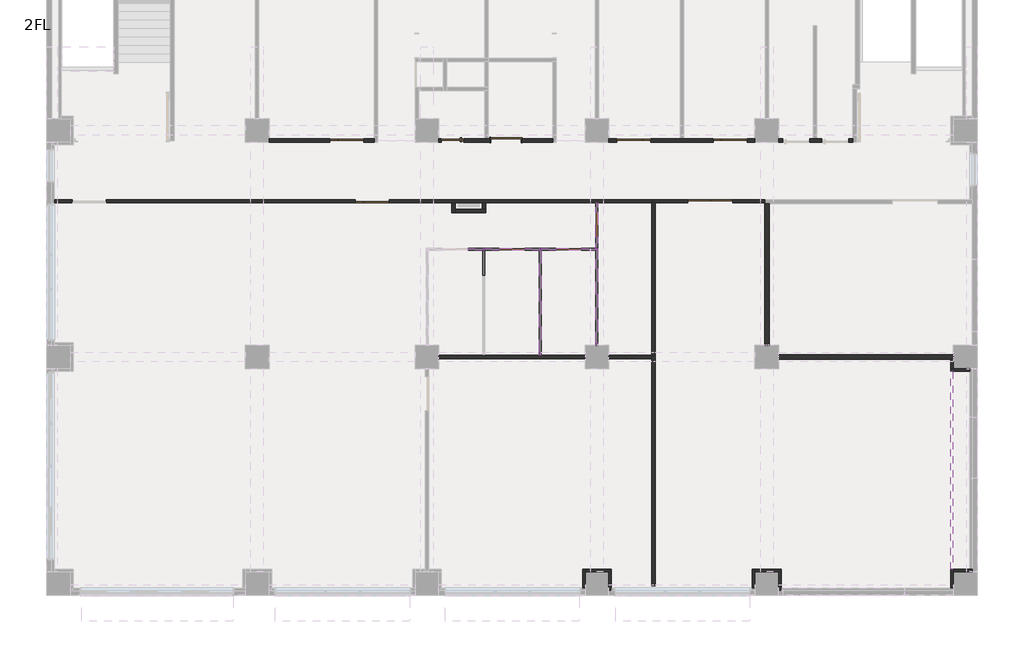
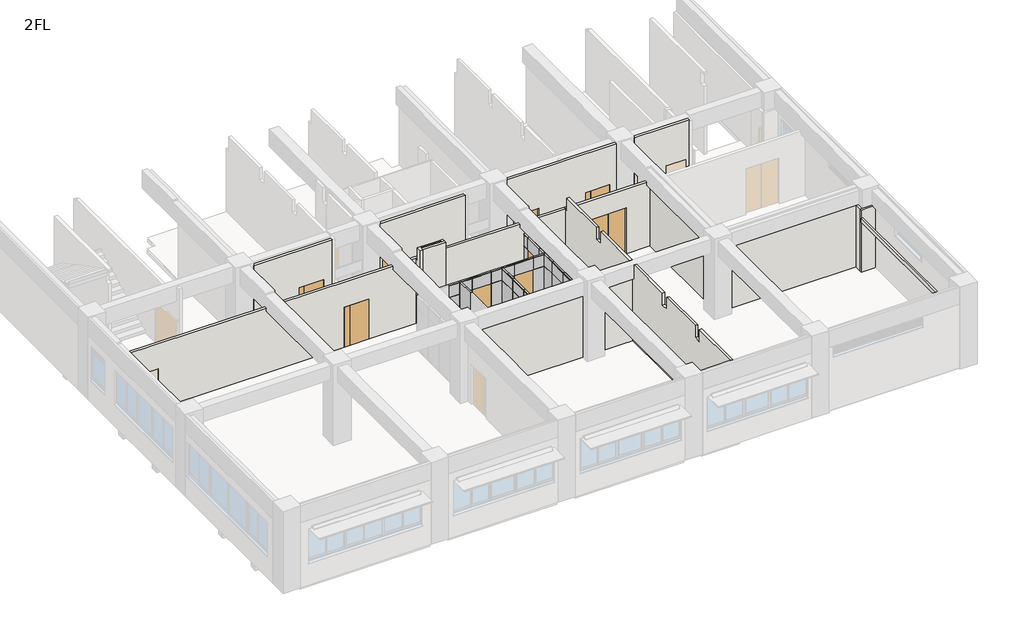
# One storey, part 2 of 7: 37 plates, 24 walls, 16 members, 10 doors.
"""IFC4 building model written with IfcOpenShell, lengths in millimetres."""

from ifc_helpers import new_model, si_unit, frame, origin, place, context, project, spatial, polyline, outline, extrude, faceted_brep, transform, mapped, element, save
from components import door_18b0804b, door_c235f466, door_db44657f, door_7458d189, door_48d1ee04, pt1_1e1990d0, member_b4131282, member_8fee23aa, plate_1920d3b0, plate_79e9bfaa, plate_647bdfd9, plate_5b77f55f, plate_b62a782f, plate_d5ff2d27, plate_b2ca1a00, plate_44eb6428, plate_b9e99dd6, plate_7cd72466, plate_84f50978, plate_53a28b3e, plate_90ae5f52, plate_9f777739, pt_5_5902302a, pt_5_33d2815e

model = new_model("IFC4")

# Units and contexts
model_context = context("Model", 3, world=origin())
ifc_project = project(units=[si_unit("LENGTHUNIT", "METRE", prefix="MILLI")], contexts=[model_context])

# Site, building, storey
site = spatial("IfcSite", under=ifc_project)
building = spatial("IfcBuilding", under=site)
storey = spatial("IfcBuildingStorey", under=building, Name="2FL", Elevation=4100.0)

# Doors
placement = place(None, origin())
door_shape = door_18b0804b(model_context)
element("IfcDoor", 1, ObjectType="営_親子扉 : LD2 1200*2000", at=placement, inside=storey, context=model_context, shape_type="MappedRepresentation", body=[
    mapped(door_shape, transform((23700.0, 15640.0, 4100.0), x_axis=(1.0, 0.0, 0.0), y_axis=(0.0, 1.0, 0.0), z_axis=(0.0, 0.0, 1.0))),
])
door_2_shape = door_c235f466(model_context)
element("IfcDoor", 2, ObjectType="営_親子扉 : LD2 1200*2000", at=placement, inside=storey, context=model_context, shape_type="MappedRepresentation", body=[
    mapped(door_2_shape, transform((11065.0, 13500.0, 4100.0), x_axis=(1.0, 0.0, 0.0), y_axis=(0.0, 1.0, 0.0), z_axis=(0.0, 0.0, 1.0))),
])
element("IfcDoor", 3, ObjectType="営_親子扉 : LD2 1200*2000", at=placement, inside=storey, context=model_context, shape_type="MappedRepresentation", body=[
    mapped(door_2_shape, transform((20300.0, 15640.0, 4100.0), x_axis=(-1.0, 0.0, 0.0), y_axis=(0.0, -1.0, 0.0), z_axis=(0.0, 0.0, 1.0))),
])
element("IfcDoor", 4, ObjectType="営_親子扉 : LD2 1200*2000", at=placement, inside=storey, context=model_context, shape_type="MappedRepresentation", body=[
    mapped(door_shape, transform((10162.645491, 15640.0, 4100.0), x_axis=(1.0, 0.0, 0.0), y_axis=(0.0, 1.0, 0.0), z_axis=(0.0, 0.0, 1.0))),
])
door_3_shape = door_db44657f(model_context)
element("IfcDoor", 5, ObjectType="営_両開き扉 : SD3c 1600*2300 2", at=placement, inside=storey, context=model_context, shape_type="MappedRepresentation", body=[
    mapped(door_3_shape, transform((23000.0, 13500.0, 4100.0), x_axis=(-1.0, 0.0, 0.0), y_axis=(0.0, -1.0, 0.0), z_axis=(0.0, 0.0, 1.0))),
])
door_4_shape = door_7458d189(model_context)
element("IfcDoor", 6, ObjectType="営_引戸／引込戸 : LD1 960*2000", at=placement, inside=storey, context=model_context, shape_type="MappedRepresentation", body=[
    mapped(door_4_shape, transform((15800.0, 15640.0, 4100.0), x_axis=(1.0, 0.0, 0.0), y_axis=(0.0, 1.0, 0.0), z_axis=(0.0, 0.0, 1.0))),
])
door_5_shape = door_48d1ee04(model_context)
element("IfcDoor", 7, ObjectType="営_片開き扉 : LD11 850*2000", at=placement, inside=storey, context=model_context, shape_type="MappedRepresentation", body=[
    mapped(door_5_shape, transform((13900.0, 15640.0, 4100.0), x_axis=(-1.0, 0.0, 0.0), y_axis=(0.0, -1.0, 0.0), z_axis=(0.0, 0.0, 1.0))),
])
pt1_shape = pt1_1e1990d0(model_context)
element("IfcDoor", 8, ObjectType="営_パーティションドア : PT3", at=placement, inside=storey, context=model_context, shape_type="MappedRepresentation", body=[
    mapped(pt1_shape, transform((16000.0, 11800.0, 4100.0), x_axis=(-1.0, 0.0, 0.0), y_axis=(0.0, -1.0, 0.0), z_axis=(0.0, 0.0, 1.0))),
])
element("IfcDoor", 9, ObjectType="営_パーティションドア : PT3", at=placement, inside=storey, context=model_context, shape_type="MappedRepresentation", body=[
    mapped(pt1_shape, transform((18000.0, 11800.0, 4100.0), x_axis=(-1.0, 0.0, 0.0), y_axis=(0.0, -1.0, 0.0), z_axis=(0.0, 0.0, 1.0))),
])
element("IfcDoor", 10, ObjectType="営_パーティションドア : PT4", at=placement, inside=storey, context=model_context, shape_type="MappedRepresentation", body=[
    mapped(pt1_shape, transform((19000.0, 12670.0, 4100.0), x_axis=(0.0, -1.0, 0.0), y_axis=(1.0, 0.0, 0.0), z_axis=(0.0, 0.0, 1.0))),
])

# Members
member_shape = member_b4131282(model_context)
element("IfcMember", 11, ObjectType="長方形マリオン : 70*70", at=placement, inside=storey, context=model_context, shape_type="MappedRepresentation", body=[
    mapped(member_shape, transform((17000.0, 11835.0, 4100.0), x_axis=(0.0, 1.0, 0.0), y_axis=(1.0, 0.0, 0.0), z_axis=(0.0, 0.0, -1.0))),
])
element("IfcMember", 12, ObjectType="長方形マリオン : 70*70", at=placement, inside=storey, context=model_context, shape_type="MappedRepresentation", body=[
    mapped(member_shape, transform((19035.0, 11800.0, 4100.0), x_axis=(1.0, 0.0, 0.0), y_axis=(0.0, -1.0, 0.0), z_axis=(0.0, 0.0, -1.0))),
])
element("IfcMember", 13, ObjectType="長方形マリオン : 70*70", at=placement, inside=storey, context=model_context, shape_type="MappedRepresentation", body=[
    mapped(member_shape, transform((15035.0, 11800.0, 4100.0), x_axis=(1.0, 0.0, 0.0), y_axis=(0.0, -1.0, 0.0), z_axis=(0.0, 0.0, -1.0))),
])
element("IfcMember", 14, ObjectType="長方形マリオン : 70*70", at=placement, inside=storey, context=model_context, shape_type="MappedRepresentation", body=[
    mapped(member_shape, transform((17035.0, 11800.0, 4100.0), x_axis=(1.0, 0.0, 0.0), y_axis=(0.0, -1.0, 0.0), z_axis=(0.0, 0.0, -1.0))),
])
member_2_shape = member_8fee23aa(model_context)
element("IfcMember", 15, ObjectType="長方形マリオン : 70*70", at=placement, inside=storey, context=model_context, shape_type="MappedRepresentation", body=[
    mapped(member_2_shape, transform((17000.0, 11835.0, 6200.0), x_axis=(0.0, 1.0, 0.0), y_axis=(1.0, 0.0, 0.0), z_axis=(0.0, 0.0, -1.0))),
])
element("IfcMember", 16, ObjectType="長方形マリオン : 70*70", at=placement, inside=storey, context=model_context, shape_type="MappedRepresentation", body=[
    mapped(member_2_shape, transform((19035.0, 11800.0, 6200.0), x_axis=(1.0, 0.0, 0.0), y_axis=(0.0, -1.0, 0.0), z_axis=(0.0, 0.0, -1.0))),
])
element("IfcMember", 17, ObjectType="長方形マリオン : 70*70", at=placement, inside=storey, context=model_context, shape_type="MappedRepresentation", body=[
    mapped(member_2_shape, transform((15035.0, 11800.0, 6200.0), x_axis=(1.0, 0.0, 0.0), y_axis=(0.0, -1.0, 0.0), z_axis=(0.0, 0.0, -1.0))),
])
element("IfcMember", 18, ObjectType="長方形マリオン : 70*70", at=placement, inside=storey, context=model_context, shape_type="MappedRepresentation", body=[
    mapped(member_2_shape, transform((17035.0, 11800.0, 6200.0), x_axis=(1.0, 0.0, 0.0), y_axis=(0.0, -1.0, 0.0), z_axis=(0.0, 0.0, -1.0))),
])
element("IfcMember", 19, ObjectType="長方形マリオン : 70*70", at=placement, inside=storey, context=model_context, shape_type="MappedRepresentation", body=[
    mapped(member_shape, transform((14965.0, 11800.0, 6200.0), x_axis=(-1.0, 0.0, 0.0), y_axis=(0.0, -1.0, 0.0), z_axis=(0.0, 0.0, 1.0))),
])
element("IfcMember", 20, ObjectType="長方形マリオン : 70*70", at=placement, inside=storey, context=model_context, shape_type="MappedRepresentation", body=[
    mapped(member_shape, transform((16965.0, 11800.0, 6200.0), x_axis=(-1.0, 0.0, 0.0), y_axis=(0.0, -1.0, 0.0), z_axis=(0.0, 0.0, 1.0))),
])
element("IfcMember", 21, ObjectType="長方形マリオン : 70*70", at=placement, inside=storey, context=model_context, shape_type="MappedRepresentation", body=[
    mapped(member_shape, transform((19000.0, 8420.0, 6200.0), x_axis=(0.0, -1.0, 0.0), y_axis=(1.0, 0.0, 0.0), z_axis=(0.0, 0.0, 1.0))),
])
element("IfcMember", 22, ObjectType="長方形マリオン : 70*70", at=placement, inside=storey, context=model_context, shape_type="MappedRepresentation", body=[
    mapped(member_2_shape, transform((14965.0, 11800.0, 6800.0), x_axis=(-1.0, 0.0, 0.0), y_axis=(0.0, -1.0, 0.0), z_axis=(0.0, 0.0, 1.0))),
])
element("IfcMember", 23, ObjectType="長方形マリオン : 70*70", at=placement, inside=storey, context=model_context, shape_type="MappedRepresentation", body=[
    mapped(member_2_shape, transform((16965.0, 11800.0, 6800.0), x_axis=(-1.0, 0.0, 0.0), y_axis=(0.0, -1.0, 0.0), z_axis=(0.0, 0.0, 1.0))),
])
element("IfcMember", 24, ObjectType="長方形マリオン : 70*70", at=placement, inside=storey, context=model_context, shape_type="MappedRepresentation", body=[
    mapped(member_2_shape, transform((19000.0, 8420.0, 6800.0), x_axis=(0.0, -1.0, 0.0), y_axis=(1.0, 0.0, 0.0), z_axis=(0.0, 0.0, 1.0))),
])
element("IfcMember", 25, ObjectType="長方形マリオン : 70*70", at=placement, inside=storey, context=model_context, shape_type="MappedRepresentation", body=[
    mapped(member_2_shape, transform((15000.0, 11835.0, 4100.0), x_axis=(0.0, 1.0, 0.0), y_axis=(1.0, 0.0, 0.0), z_axis=(0.0, 0.0, -1.0))),
])
element("IfcMember", 26, ObjectType="長方形マリオン : 70*70", at=placement, inside=storey, context=model_context, shape_type="MappedRepresentation", body=[
    mapped(member_shape, transform((15000.0, 11835.0, 4700.0), x_axis=(0.0, 1.0, 0.0), y_axis=(1.0, 0.0, 0.0), z_axis=(0.0, 0.0, -1.0))),
])

# Plates
plate_shape = plate_1920d3b0(model_context)
element("IfcPlate", 27, ObjectType="営_パーティションパネル_上部 : パーティションパネル_上部", at=placement, inside=storey, context=model_context, shape_type="MappedRepresentation", body=[
    mapped(plate_shape, transform((17000.0, 8112.4999998, 6200.0), x_axis=(0.0, 1.0, 0.0), y_axis=(-1.0, 0.0, 0.0), z_axis=(0.0, 0.0, 1.0))),
])
plate_2_shape = plate_79e9bfaa(model_context)
element("IfcPlate", 28, ObjectType="営_パーティションパネル_下部 : パーティションパネル_下部", at=placement, inside=storey, context=model_context, shape_type="MappedRepresentation", body=[
    mapped(plate_2_shape, transform((17000.0, 8112.4999998, 4100.0), x_axis=(0.0, 1.0, 0.0), y_axis=(-1.0, 0.0, 0.0), z_axis=(0.0, 0.0, 1.0))),
])
plate_3_shape = plate_647bdfd9(model_context)
element("IfcPlate", 29, ObjectType="営_パーティションパネル_下部 : パーティションパネル_下部", at=placement, inside=storey, context=model_context, shape_type="MappedRepresentation", body=[
    mapped(plate_3_shape, transform((19000.0, 13280.0, 4100.0), x_axis=(0.0, 1.0, 0.0), y_axis=(-1.0, 0.0, 0.0), z_axis=(0.0, 0.0, 1.0))),
])
plate_4_shape = plate_5b77f55f(model_context)
element("IfcPlate", 30, ObjectType="営_パーティションパネル_上部 : パーティションパネル_上部", at=placement, inside=storey, context=model_context, shape_type="MappedRepresentation", body=[
    mapped(plate_4_shape, transform((19000.0, 13280.0, 6200.0), x_axis=(0.0, 1.0, 0.0), y_axis=(-1.0, 0.0, 0.0), z_axis=(0.0, 0.0, 1.0))),
])
plate_5_shape = plate_b62a782f(model_context)
element("IfcPlate", 31, ObjectType="営_パーティションパネル_上部 : パーティションパネル_上部", at=placement, inside=storey, context=model_context, shape_type="MappedRepresentation", body=[
    mapped(plate_5_shape, transform((19000.0, 12010.0, 6200.0), x_axis=(0.0, 1.0, 0.0), y_axis=(-1.0, 0.0, 0.0), z_axis=(0.0, 0.0, 1.0))),
])
plate_6_shape = plate_d5ff2d27(model_context)
element("IfcPlate", 32, ObjectType="営_パーティションパネル_下部 : パーティションパネル_下部", at=placement, inside=storey, context=model_context, shape_type="MappedRepresentation", body=[
    mapped(plate_6_shape, transform((19000.0, 12010.0, 4100.0), x_axis=(0.0, 1.0, 0.0), y_axis=(-1.0, 0.0, 0.0), z_axis=(0.0, 0.0, 1.0))),
])
plate_7_shape = plate_b2ca1a00(model_context)
element("IfcPlate", 33, ObjectType="営_パーティションパネル_下部 : パーティションパネル_下部", at=placement, inside=storey, context=model_context, shape_type="MappedRepresentation", body=[
    mapped(plate_7_shape, transform((19000.0, 11455.0000002, 4100.0), x_axis=(0.0, 1.0, 0.0), y_axis=(-1.0, 0.0, 0.0), z_axis=(0.0, 0.0, 1.0))),
])
plate_8_shape = plate_44eb6428(model_context)
element("IfcPlate", 34, ObjectType="営_パーティションパネル_上部 : パーティションパネル_上部", at=placement, inside=storey, context=model_context, shape_type="MappedRepresentation", body=[
    mapped(plate_8_shape, transform((19000.0, 11455.0000002, 6200.0), x_axis=(0.0, 1.0, 0.0), y_axis=(-1.0, 0.0, 0.0), z_axis=(0.0, 0.0, 1.0))),
])
plate_9_shape = plate_b9e99dd6(model_context)
element("IfcPlate", 35, ObjectType="営_パーティションパネル_下部 : パーティションパネル_下部", at=placement, inside=storey, context=model_context, shape_type="MappedRepresentation", body=[
    mapped(plate_9_shape, transform((19000.0, 8900.0000002, 4100.0), x_axis=(0.0, 1.0, 0.0), y_axis=(-1.0, 0.0, 0.0), z_axis=(0.0, 0.0, 1.0))),
])
plate_10_shape = plate_7cd72466(model_context)
element("IfcPlate", 36, ObjectType="営_パーティションパネル_上部 : パーティションパネル_上部", at=placement, inside=storey, context=model_context, shape_type="MappedRepresentation", body=[
    mapped(plate_10_shape, transform((19000.0, 8900.0000002, 6200.0), x_axis=(0.0, 1.0, 0.0), y_axis=(-1.0, 0.0, 0.0), z_axis=(0.0, 0.0, 1.0))),
])
plate_11_shape = plate_84f50978(model_context)
element("IfcPlate", 37, ObjectType="営_パーティションパネル_下部 : パーティションパネル_下部", at=placement, inside=storey, context=model_context, shape_type="MappedRepresentation", body=[
    mapped(plate_11_shape, transform((19000.0, 9760.0000003, 4100.0), x_axis=(0.0, 1.0, 0.0), y_axis=(-1.0, 0.0, 0.0), z_axis=(0.0, 0.0, 1.0))),
])
element("IfcPlate", 38, ObjectType="営_パーティションパネル_下部 : パーティションパネル_下部", at=placement, inside=storey, context=model_context, shape_type="MappedRepresentation", body=[
    mapped(plate_11_shape, transform((19000.0, 10660.0000003, 4100.0), x_axis=(0.0, 1.0, 0.0), y_axis=(-1.0, 0.0, 0.0), z_axis=(0.0, 0.0, 1.0))),
])
element("IfcPlate", 39, ObjectType="営_パーティションパネル_下部 : パーティションパネル_下部", at=placement, inside=storey, context=model_context, shape_type="MappedRepresentation", body=[
    mapped(plate_11_shape, transform((17000.0, 8614.9999997, 4100.0), x_axis=(0.0, 1.0, 0.0), y_axis=(-1.0, 0.0, 0.0), z_axis=(0.0, 0.0, 1.0))),
])
element("IfcPlate", 40, ObjectType="営_パーティションパネル_下部 : パーティションパネル_下部", at=placement, inside=storey, context=model_context, shape_type="MappedRepresentation", body=[
    mapped(plate_11_shape, transform((17000.0, 10414.9999997, 4100.0), x_axis=(0.0, 1.0, 0.0), y_axis=(-1.0, 0.0, 0.0), z_axis=(0.0, 0.0, 1.0))),
])
element("IfcPlate", 41, ObjectType="営_パーティションパネル_下部 : パーティションパネル_下部", at=placement, inside=storey, context=model_context, shape_type="MappedRepresentation", body=[
    mapped(plate_11_shape, transform((17000.0, 11314.9999998, 4100.0), x_axis=(0.0, 1.0, 0.0), y_axis=(-1.0, 0.0, 0.0), z_axis=(0.0, 0.0, 1.0))),
])
element("IfcPlate", 42, ObjectType="営_パーティションパネル_下部 : パーティションパネル_下部", at=placement, inside=storey, context=model_context, shape_type="MappedRepresentation", body=[
    mapped(plate_11_shape, transform((15000.0, 11314.9999998, 4700.0), x_axis=(0.0, 1.0, 0.0), y_axis=(-1.0, 0.0, 0.0), z_axis=(0.0, 0.0, 1.0))),
])
plate_12_shape = plate_53a28b3e(model_context)
element("IfcPlate", 43, ObjectType="営_パーティションパネル_上部 : パーティションパネル_上部", at=placement, inside=storey, context=model_context, shape_type="MappedRepresentation", body=[
    mapped(plate_12_shape, transform((16000.0, 11800.0, 6200.0), x_axis=(1.0, 0.0, 0.0), y_axis=(0.0, 1.0, 0.0), z_axis=(0.0, 0.0, 1.0))),
])
element("IfcPlate", 44, ObjectType="営_パーティションパネル_上部 : パーティションパネル_上部", at=placement, inside=storey, context=model_context, shape_type="MappedRepresentation", body=[
    mapped(plate_12_shape, transform((18000.0, 11800.0, 6200.0), x_axis=(1.0, 0.0, 0.0), y_axis=(0.0, 1.0, 0.0), z_axis=(0.0, 0.0, 1.0))),
])
element("IfcPlate", 45, ObjectType="営_パーティションパネル_上部 : パーティションパネル_上部", at=placement, inside=storey, context=model_context, shape_type="MappedRepresentation", body=[
    mapped(plate_12_shape, transform((19000.0, 9760.0000003, 6200.0), x_axis=(0.0, 1.0, 0.0), y_axis=(-1.0, 0.0, 0.0), z_axis=(0.0, 0.0, 1.0))),
])
element("IfcPlate", 46, ObjectType="営_パーティションパネル_上部 : パーティションパネル_上部", at=placement, inside=storey, context=model_context, shape_type="MappedRepresentation", body=[
    mapped(plate_12_shape, transform((19000.0, 10660.0000003, 6200.0), x_axis=(0.0, 1.0, 0.0), y_axis=(-1.0, 0.0, 0.0), z_axis=(0.0, 0.0, 1.0))),
])
element("IfcPlate", 47, ObjectType="営_パーティションパネル_上部 : パーティションパネル_上部", at=placement, inside=storey, context=model_context, shape_type="MappedRepresentation", body=[
    mapped(plate_12_shape, transform((19000.0, 12670.0, 6200.0), x_axis=(0.0, 1.0, 0.0), y_axis=(-1.0, 0.0, 0.0), z_axis=(0.0, 0.0, 1.0))),
])
element("IfcPlate", 48, ObjectType="営_パーティションパネル_上部 : パーティションパネル_上部", at=placement, inside=storey, context=model_context, shape_type="MappedRepresentation", body=[
    mapped(plate_12_shape, transform((17000.0, 8614.9999997, 6200.0), x_axis=(0.0, 1.0, 0.0), y_axis=(-1.0, 0.0, 0.0), z_axis=(0.0, 0.0, 1.0))),
])
element("IfcPlate", 49, ObjectType="営_パーティションパネル_上部 : パーティションパネル_上部", at=placement, inside=storey, context=model_context, shape_type="MappedRepresentation", body=[
    mapped(plate_12_shape, transform((17000.0, 9514.9999997, 6200.0), x_axis=(0.0, 1.0, 0.0), y_axis=(-1.0, 0.0, 0.0), z_axis=(0.0, 0.0, 1.0))),
])
element("IfcPlate", 50, ObjectType="営_パーティションパネル_上部 : パーティションパネル_上部", at=placement, inside=storey, context=model_context, shape_type="MappedRepresentation", body=[
    mapped(plate_12_shape, transform((17000.0, 10414.9999997, 6200.0), x_axis=(0.0, 1.0, 0.0), y_axis=(-1.0, 0.0, 0.0), z_axis=(0.0, 0.0, 1.0))),
])
element("IfcPlate", 51, ObjectType="営_パーティションパネル_上部 : パーティションパネル_上部", at=placement, inside=storey, context=model_context, shape_type="MappedRepresentation", body=[
    mapped(plate_12_shape, transform((17000.0, 11314.9999998, 6200.0), x_axis=(0.0, 1.0, 0.0), y_axis=(-1.0, 0.0, 0.0), z_axis=(0.0, 0.0, 1.0))),
])
plate_13_shape = plate_90ae5f52(model_context)
element("IfcPlate", 52, ObjectType="営_パーティションパネル_下部 : パーティションパネル_下部", at=placement, inside=storey, context=model_context, shape_type="MappedRepresentation", body=[
    mapped(plate_13_shape, transform((16707.5, 11800.0, 4100.0), x_axis=(1.0, 0.0, 0.0), y_axis=(0.0, 1.0, 0.0), z_axis=(0.0, 0.0, 1.0))),
])
element("IfcPlate", 53, ObjectType="営_パーティションパネル_下部 : パーティションパネル_下部", at=placement, inside=storey, context=model_context, shape_type="MappedRepresentation", body=[
    mapped(plate_13_shape, transform((18707.5, 11800.0, 4100.0), x_axis=(1.0, 0.0, 0.0), y_axis=(0.0, 1.0, 0.0), z_axis=(0.0, 0.0, 1.0))),
])
element("IfcPlate", 54, ObjectType="営_パーティションパネル_下部 : パーティションパネル_下部", at=placement, inside=storey, context=model_context, shape_type="MappedRepresentation", body=[
    mapped(plate_13_shape, transform((15292.5, 11800.0, 4100.0), x_axis=(1.0, 0.0, 0.0), y_axis=(0.0, 1.0, 0.0), z_axis=(0.0, 0.0, 1.0))),
])
element("IfcPlate", 55, ObjectType="営_パーティションパネル_下部 : パーティションパネル_下部", at=placement, inside=storey, context=model_context, shape_type="MappedRepresentation", body=[
    mapped(plate_13_shape, transform((17292.5, 11800.0, 4100.0), x_axis=(1.0, 0.0, 0.0), y_axis=(0.0, 1.0, 0.0), z_axis=(0.0, 0.0, 1.0))),
])
element("IfcPlate", 56, ObjectType="営_パーティションパネル_下部 : パーティションパネル_下部", at=placement, inside=storey, context=model_context, shape_type="MappedRepresentation", body=[
    mapped(plate_13_shape, transform((14707.5, 11800.0, 4100.0), x_axis=(1.0, 0.0, 0.0), y_axis=(0.0, 1.0, 0.0), z_axis=(0.0, 0.0, 1.0))),
])
plate_14_shape = plate_9f777739(model_context)
element("IfcPlate", 57, ObjectType="営_パーティションパネル_上部 : パーティションパネル_上部", at=placement, inside=storey, context=model_context, shape_type="MappedRepresentation", body=[
    mapped(plate_14_shape, transform((16707.5, 11800.0, 6200.0), x_axis=(1.0, 0.0, 0.0), y_axis=(0.0, 1.0, 0.0), z_axis=(0.0, 0.0, 1.0))),
])
element("IfcPlate", 58, ObjectType="営_パーティションパネル_上部 : パーティションパネル_上部", at=placement, inside=storey, context=model_context, shape_type="MappedRepresentation", body=[
    mapped(plate_14_shape, transform((18707.5, 11800.0, 6200.0), x_axis=(1.0, 0.0, 0.0), y_axis=(0.0, 1.0, 0.0), z_axis=(0.0, 0.0, 1.0))),
])
element("IfcPlate", 59, ObjectType="営_パーティションパネル_上部 : パーティションパネル_上部", at=placement, inside=storey, context=model_context, shape_type="MappedRepresentation", body=[
    mapped(plate_14_shape, transform((15292.5, 11800.0, 6200.0), x_axis=(1.0, 0.0, 0.0), y_axis=(0.0, 1.0, 0.0), z_axis=(0.0, 0.0, 1.0))),
])
element("IfcPlate", 60, ObjectType="営_パーティションパネル_上部 : パーティションパネル_上部", at=placement, inside=storey, context=model_context, shape_type="MappedRepresentation", body=[
    mapped(plate_14_shape, transform((17292.5, 11800.0, 6200.0), x_axis=(1.0, 0.0, 0.0), y_axis=(0.0, 1.0, 0.0), z_axis=(0.0, 0.0, 1.0))),
])
element("IfcPlate", 61, ObjectType="営_パーティションパネル_上部 : パーティションパネル_上部", at=placement, inside=storey, context=model_context, shape_type="MappedRepresentation", body=[
    mapped(plate_14_shape, transform((14707.5, 11800.0, 6200.0), x_axis=(1.0, 0.0, 0.0), y_axis=(0.0, 1.0, 0.0), z_axis=(0.0, 0.0, 1.0))),
])
pt_5_shape = pt_5_5902302a(model_context)
element("IfcPlate", 62, ObjectType="営_パーティションパネル_下部 : パーティションパネル_下部", at=placement, inside=storey, context=model_context, shape_type="MappedRepresentation", body=[
    mapped(pt_5_shape, transform((15000.0, 11314.9999998, 4100.0), x_axis=(0.0, 1.0, 0.0), y_axis=(-1.0, 0.0, 0.0), z_axis=(0.0, 0.0, 1.0))),
])
pt_5_2_shape = pt_5_33d2815e(model_context)
element("IfcPlate", 63, ObjectType="営_パーティションパネル_下部 : PT-5", at=placement, inside=storey, context=model_context, shape_type="MappedRepresentation", body=[
    mapped(pt_5_2_shape, transform((17000.0, 9514.9999997, 4100.0), x_axis=(0.0, 1.0, 0.0), y_axis=(-1.0, 0.0, 0.0), z_axis=(0.0, 0.0, 1.0))),
])

# Walls
element("IfcWall", 64, ObjectType="(内壁)W3", at=placement, inside=storey, context=model_context, shape_type="Brep", body=[
    faceted_brep([(20950.0, 13440.0, 4100.0), (20950.0, 13440.0, 7350.0), (20940.0, 13440.0, 7350.0), (19225.0, 13440.0, 7350.0), (19225.0, 13440.0, 7200.0), (18775.0, 13440.0, 7200.0), (18775.0, 13440.0, 7350.0), (15070.0, 13440.0, 7350.0), (14950.0, 13440.0, 7350.0), (13990.0, 13440.0, 7350.0), (13870.0, 13440.0, 7350.0), (13225.0, 13440.0, 7350.0), (13225.0, 13440.0, 7200.0), (12775.0, 13440.0, 7200.0), (12775.0, 13440.0, 7350.0), (7225.0, 13440.0, 7350.0), (7225.0, 13440.0, 7200.0), (6775.0, 13440.0, 7200.0), (6775.0, 13440.0, 7350.0), (-50.0, 13440.0, 7350.0), (-50.0, 13440.0, 7200.0), (-250.0, 13440.0, 7200.0), (-250.0, 13440.0, 4100.0), (465.0, 13440.0, 4100.0), (465.0, 13440.0, 6100.0), (1665.0, 13440.0, 6100.0), (1665.0, 13440.0, 4100.0), (10465.0, 13440.0, 4100.0), (10465.0, 13440.0, 6100.0), (11665.0, 13440.0, 6100.0), (11665.0, 13440.0, 4100.0), (13870.0, 13440.0, 4100.0), (13990.0, 13440.0, 4100.0), (14950.0, 13440.0, 4100.0), (15070.0, 13440.0, 4100.0), (20940.0, 13440.0, 4100.0), (20950.0, 13560.0, 7350.0), (20950.0, 13560.0, 4100.0), (11665.0, 13560.0, 4100.0), (11665.0, 13560.0, 6100.0), (10465.0, 13560.0, 6100.0), (10465.0, 13560.0, 4100.0), (1665.0, 13560.0, 4100.0), (1665.0, 13560.0, 6100.0), (465.0, 13560.0, 6100.0), (465.0, 13560.0, 4100.0), (-250.0, 13560.0, 4100.0), (-250.0, 13560.0, 7200.0), (-50.0, 13560.0, 7200.0), (-50.0, 13560.0, 7350.0), (6775.0, 13560.0, 7350.0), (6775.0, 13560.0, 7200.0), (7225.0, 13560.0, 7200.0), (7225.0, 13560.0, 7350.0), (12775.0, 13560.0, 7350.0), (12775.0, 13560.0, 7200.0), (13225.0, 13560.0, 7200.0), (13225.0, 13560.0, 7350.0), (18775.0, 13560.0, 7350.0), (18775.0, 13560.0, 7200.0), (19225.0, 13560.0, 7200.0), (19225.0, 13560.0, 7350.0)], [[[0, 1, 2, 3, 4, 5, 6, 7, 8, 9, 10, 11, 12, 13, 14, 15, 16, 17, 18, 19, 20, 21, 22, 23, 24, 25, 26, 27, 28, 29, 30, 31, 32, 33, 34, 35]], [[36, 37, 38, 39, 40, 41, 42, 43, 44, 45, 46, 47, 48, 49, 50, 51, 52, 53, 54, 55, 56, 57, 58, 59, 60, 61]], [[22, 46, 45, 23]], [[26, 42, 41, 27]], [[37, 0, 35, 34, 33, 32, 31, 30, 38]], [[1, 0, 37, 36]], [[1, 36, 61, 3, 2]], [[49, 19, 18, 50]], [[53, 15, 14, 54]], [[57, 11, 10, 9, 8, 7, 6, 58]], [[46, 22, 21, 47]], [[26, 25, 43, 42]], [[24, 23, 45, 44]], [[25, 24, 44, 43]], [[41, 40, 28, 27]], [[39, 38, 30, 29]], [[40, 39, 29, 28]], [[48, 20, 19, 49]], [[20, 48, 47, 21]], [[52, 16, 15, 53]], [[16, 52, 51, 17]], [[17, 51, 50, 18]], [[56, 12, 11, 57]], [[12, 56, 55, 13]], [[13, 55, 54, 14]], [[60, 4, 3, 61]], [[4, 60, 59, 5]], [[5, 59, 58, 6]]]),
])
element("IfcWall", 65, ObjectType="(内壁)150_RC", at=placement, inside=storey, context=model_context, shape_type="SweptSolid", body=[
    extrude(outline(polyline([(24925.0, 13410.0), (25075.0, 13410.0), (25075.0, 8420.0), (24925.0, 8420.0), (24925.0, 13410.0)])), frame((0.0, 0.0, 4100.0), z_axis=(0.0, 0.0, 1.0), x_axis=(1.0, 0.0, 0.0)), (0.0, 0.0, 1.0), 3100.0),
])
element("IfcWall", 66, ObjectType="(内壁)150_RC", at=placement, inside=storey, context=model_context, shape_type="Brep", body=[
    faceted_brep([(25420.0, 7925.0, 4100.0), (31580.0, 7925.0, 4100.0), (31580.0, 7925.0, 7200.0), (31580.0, 7925.0, 7250.0), (25420.0, 7925.0, 7250.0), (31580.0, 8075.0, 4100.0), (25420.0, 8075.0, 4100.0), (25420.0, 8075.0, 7250.0), (31580.0, 8075.0, 7250.0)], [[[0, 1, 2, 3, 4]], [[5, 6, 7, 8]], [[0, 6, 5, 1]], [[6, 0, 4, 7]], [[1, 5, 8, 3, 2]], [[4, 3, 8, 7]]]),
])
element("IfcWall", 67, ObjectType="(内壁)W3", at=placement, inside=storey, context=model_context, shape_type="Brep", body=[
    faceted_brep([(20900.0, 15700.0, 4100.0), (20900.0, 15700.0, 6100.0), (19700.0, 15700.0, 6100.0), (19700.0, 15700.0, 4100.0), (19420.0, 15700.0, 4100.0), (19420.0, 15700.0, 8040.0), (21940.0, 15700.0, 8040.0), (22060.0, 15700.0, 8040.0), (24580.0, 15700.0, 8040.0), (24580.0, 15700.0, 4100.0), (24300.0, 15700.0, 4100.0), (24300.0, 15700.0, 6100.0), (23100.0, 15700.0, 6100.0), (23100.0, 15700.0, 4100.0), (22060.0, 15700.0, 4100.0), (21940.0, 15700.0, 4100.0), (20900.0, 15580.0, 6100.0), (20900.0, 15580.0, 4100.0), (23100.0, 15580.0, 4100.0), (23100.0, 15580.0, 6100.0), (24300.0, 15580.0, 6100.0), (24300.0, 15580.0, 4100.0), (24580.0, 15580.0, 4100.0), (24580.0, 15580.0, 8040.0), (19420.0, 15580.0, 8040.0), (19420.0, 15580.0, 4100.0), (19700.0, 15580.0, 4100.0), (19700.0, 15580.0, 6100.0), (19420.0, 15640.0, 8040.0), (24580.0, 15640.0, 8040.0)], [[[0, 1, 2, 3, 4, 5, 6, 7, 8, 9, 10, 11, 12, 13, 14, 15]], [[16, 17, 18, 19, 20, 21, 22, 23, 24, 25, 26, 27]], [[17, 0, 15, 14, 13, 18]], [[3, 26, 25, 4]], [[21, 10, 9, 22]], [[5, 28, 24, 23, 29, 8, 7, 6]], [[17, 16, 1, 0]], [[27, 26, 3, 2]], [[16, 27, 2, 1]], [[13, 12, 19, 18]], [[11, 10, 21, 20]], [[12, 11, 20, 19]], [[5, 4, 25, 24, 28]], [[9, 8, 29, 23, 22]]]),
    faceted_brep([(25555.0, 15700.0, 6100.0), (25555.0, 15700.0, 4100.0), (25420.0, 15700.0, 4100.0), (25420.0, 15700.0, 8040.0), (28025.0, 15700.0, 8040.0), (28025.0, 15700.0, 4100.0), (27885.0, 15700.0, 4100.0), (27885.0, 15700.0, 6100.0), (26935.0, 15700.0, 6100.0), (26935.0, 15700.0, 4100.0), (26760.0, 15700.0, 4100.0), (26640.0, 15700.0, 4100.0), (26505.0, 15700.0, 4100.0), (26505.0, 15700.0, 6100.0), (27885.0, 15580.0, 4100.0), (28025.0, 15580.0, 4100.0), (28025.0, 15580.0, 7950.0), (28025.0, 15580.0, 8040.0), (25420.0, 15580.0, 8040.0), (25420.0, 15580.0, 4100.0), (25555.0, 15580.0, 4100.0), (25555.0, 15580.0, 6100.0), (26505.0, 15580.0, 6100.0), (26505.0, 15580.0, 4100.0), (26935.0, 15580.0, 4100.0), (26935.0, 15580.0, 6100.0), (27885.0, 15580.0, 6100.0), (25420.0, 15640.0, 8040.0)], [[[0, 1, 2, 3, 4, 5, 6, 7, 8, 9, 10, 11, 12, 13]], [[14, 15, 16, 17, 18, 19, 20, 21, 22, 23, 24, 25, 26]], [[15, 14, 6, 5]], [[1, 20, 19, 2]], [[23, 12, 11, 10, 9, 24]], [[17, 4, 3, 27, 18]], [[1, 0, 21, 20]], [[13, 12, 23, 22]], [[0, 13, 22, 21]], [[3, 2, 19, 18, 27]], [[8, 25, 24, 9]], [[25, 8, 7, 26]], [[26, 7, 6, 14]], [[5, 4, 17, 16, 15]]]),
])
element("IfcWall", 68, ObjectType="(内壁)W4", at=placement, inside=storey, context=model_context, shape_type="Brep", body=[
    faceted_brep([(19420.0, 7940.0, 4100.0), (20940.0, 7940.0, 4100.0), (20940.0, 7940.0, 7250.0), (19420.0, 7940.0, 7250.0), (20940.0, 8060.0, 4100.0), (19420.0, 8060.0, 4100.0), (19420.0, 8060.0, 7250.0), (20940.0, 8060.0, 7250.0), (20940.0, 8050.0, 4100.0), (20940.0, 8050.0, 7250.0)], [[[0, 1, 2, 3]], [[4, 5, 6, 7]], [[4, 8, 1, 0, 5]], [[1, 8, 4, 7, 9, 2]], [[5, 0, 3, 6]], [[3, 2, 9, 7, 6]]]),
    faceted_brep([(13420.0, 7940.0, 4100.0), (18580.0, 7940.0, 4100.0), (18580.0, 7940.0, 7250.0), (13420.0, 7940.0, 7250.0), (18580.0, 8060.0, 4100.0), (13420.0, 8060.0, 4100.0), (13420.0, 8060.0, 7250.0), (18580.0, 8060.0, 7250.0)], [[[0, 1, 2, 3]], [[4, 5, 6, 7]], [[0, 5, 4, 1]], [[5, 0, 3, 6]], [[1, 4, 7, 2]], [[3, 2, 7, 6]]]),
])
element("IfcWall", 69, ObjectType="(内壁)W1", at=placement, inside=storey, context=model_context, shape_type="Brep", body=[
    faceted_brep([(20940.0, 13440.0, 4100.0), (20940.0, 8060.0, 4100.0), (20940.0, 8050.0, 4100.0), (20940.0, 8050.0, 7250.0), (20940.0, 8060.0, 7250.0), (20940.0, 8175.0, 7250.0), (20940.0, 8175.0, 7950.0), (20940.0, 10575.0, 7950.0), (20940.0, 10575.0, 7350.0), (20940.0, 10925.0, 7350.0), (20940.0, 10925.0, 7950.0), (20940.0, 13325.0, 7950.0), (20940.0, 13325.0, 7350.0), (20940.0, 13440.0, 7350.0), (21060.0, 8050.0, 4100.0), (21060.0, 13440.0, 4100.0), (21060.0, 13440.0, 7350.0), (21060.0, 13325.0, 7350.0), (21060.0, 13325.0, 7950.0), (21060.0, 10925.0, 7950.0), (21060.0, 10925.0, 7350.0), (21060.0, 10575.0, 7350.0), (21060.0, 10575.0, 7950.0), (21060.0, 8175.0, 7950.0), (21060.0, 8175.0, 7250.0), (21060.0, 8050.0, 7250.0), (20950.0, 13440.0, 4100.0), (20950.0, 13440.0, 7350.0)], [[[0, 1, 2, 3, 4, 5, 6, 7, 8, 9, 10, 11, 12, 13]], [[14, 15, 16, 17, 18, 19, 20, 21, 22, 23, 24, 25]], [[2, 1, 0, 26, 15, 14]], [[2, 14, 25, 3]], [[6, 23, 22, 7]], [[10, 19, 18, 11]], [[24, 5, 4, 3, 25]], [[5, 24, 23, 6]], [[15, 26, 0, 13, 27, 16]], [[21, 8, 7, 22]], [[8, 21, 20, 9]], [[9, 20, 19, 10]], [[17, 12, 11, 18]], [[12, 17, 16, 27, 13]]]),
])
element("IfcWall", 70, ObjectType="(内壁)W4", at=placement, inside=storey, context=model_context, shape_type="SweptSolid", body=[
    extrude(outline(polyline([(6100.0, 9562.645491), (6100.0, 10762.645491), (4100.0, 10762.645491), (4100.0, 11140.0), (7950.0, 11140.0), (7950.0, 7420.0), (4100.0, 7420.0), (4100.0, 9562.645491), (6100.0, 9562.645491)])), frame((0.0, 15580.0, 0.0), z_axis=(0.0, 1.0, 0.0), x_axis=(0.0, 0.0, 1.0)), (0.0, 0.0, 1.0), 120.0),
])
element("IfcWall", 71, ObjectType="(内壁)W4", at=placement, inside=storey, context=model_context, shape_type="Brep", body=[
    faceted_brep([(14300.0, 15700.0, 4100.0), (14300.0, 15700.0, 6100.0), (13500.0, 15700.0, 6100.0), (13500.0, 15700.0, 4100.0), (13420.0, 15700.0, 4100.0), (13420.0, 15700.0, 7950.0), (15040.0, 15700.0, 7950.0), (15160.0, 15700.0, 7950.0), (17440.0, 15700.0, 7950.0), (17440.0, 15700.0, 4100.0), (16355.0, 15700.0, 4100.0), (16355.0, 15700.0, 6125.0), (15220.0, 15700.0, 6125.0), (15220.0, 15700.0, 4100.0), (15160.0, 15700.0, 4100.0), (15040.0, 15700.0, 4100.0), (14300.0, 15580.0, 6100.0), (14300.0, 15580.0, 4100.0), (15220.0, 15580.0, 4100.0), (15220.0, 15580.0, 6125.0), (16355.0, 15580.0, 6125.0), (16355.0, 15580.0, 4100.0), (17440.0, 15580.0, 4100.0), (17440.0, 15580.0, 7950.0), (13420.0, 15580.0, 7950.0), (13420.0, 15580.0, 4100.0), (13500.0, 15580.0, 4100.0), (13500.0, 15580.0, 6100.0)], [[[0, 1, 2, 3, 4, 5, 6, 7, 8, 9, 10, 11, 12, 13, 14, 15]], [[16, 17, 18, 19, 20, 21, 22, 23, 24, 25, 26, 27]], [[17, 0, 15, 14, 13, 18]], [[3, 26, 25, 4]], [[22, 21, 10, 9]], [[23, 8, 7, 6, 5, 24]], [[17, 16, 1, 0]], [[27, 26, 3, 2]], [[16, 27, 2, 1]], [[12, 19, 18, 13]], [[20, 11, 10, 21]], [[19, 12, 11, 20]], [[5, 4, 25, 24]], [[9, 8, 23, 22]]]),
])
element("IfcWall", 72, ObjectType="(内壁)W2", at=placement, inside=storey, context=model_context, shape_type="Brep", body=[
    faceted_brep([(20940.0, 8050.0, 4100.0), (20940.0, 7940.0, 4100.0), (20940.0, -70.0, 4100.0), (20940.0, -70.0, 7250.0), (20940.0, -50.0, 7250.0), (20940.0, -50.0, 7950.0), (20940.0, 2485.0, 7950.0), (20940.0, 2485.0, 7350.0), (20940.0, 2835.0, 7350.0), (20940.0, 2835.0, 7950.0), (20940.0, 5155.0, 7950.0), (20940.0, 5155.0, 7350.0), (20940.0, 5505.0, 7350.0), (20940.0, 5505.0, 7950.0), (20940.0, 7825.0, 7950.0), (20940.0, 7825.0, 7250.0), (20940.0, 7940.0, 7250.0), (20940.0, 8050.0, 7250.0), (21060.0, -70.0, 4100.0), (21060.0, 8050.0, 4100.0), (21060.0, 8050.0, 7250.0), (21060.0, 7825.0, 7250.0), (21060.0, 7825.0, 7950.0), (21060.0, 5505.0, 7950.0), (21060.0, 5505.0, 7350.0), (21060.0, 5155.0, 7350.0), (21060.0, 5155.0, 7950.0), (21060.0, 2835.0, 7950.0), (21060.0, 2835.0, 7350.0), (21060.0, 2485.0, 7350.0), (21060.0, 2485.0, 7950.0), (21060.0, -50.0, 7950.0), (21060.0, -50.0, 7250.0), (21060.0, -70.0, 7250.0)], [[[0, 1, 2, 3, 4, 5, 6, 7, 8, 9, 10, 11, 12, 13, 14, 15, 16, 17]], [[18, 19, 20, 21, 22, 23, 24, 25, 26, 27, 28, 29, 30, 31, 32, 33]], [[2, 1, 0, 19, 18]], [[2, 18, 33, 3]], [[5, 31, 30, 6]], [[22, 14, 13, 23]], [[9, 27, 26, 10]], [[19, 0, 17, 20]], [[32, 4, 3, 33]], [[4, 32, 31, 5]], [[21, 15, 14, 22]], [[15, 21, 20, 17, 16]], [[29, 7, 6, 30]], [[7, 29, 28, 8]], [[8, 28, 27, 9]], [[25, 11, 10, 26]], [[11, 25, 24, 12]], [[12, 24, 23, 13]]]),
])
element("IfcWall", 73, ObjectType="(内壁)W1", at=placement, inside=storey, context=model_context, shape_type="Brep", body=[
    faceted_brep([(22200.0, 13440.0, 6400.0), (23800.0, 13440.0, 6400.0), (23800.0, 13440.0, 4100.0), (24925.0, 13440.0, 4100.0), (24925.0, 13440.0, 7200.0), (24775.0, 13440.0, 7200.0), (24775.0, 13440.0, 7350.0), (21060.0, 13440.0, 7350.0), (20950.0, 13440.0, 7350.0), (20950.0, 13440.0, 4100.0), (21060.0, 13440.0, 4100.0), (22200.0, 13440.0, 4100.0), (23800.0, 13560.0, 6400.0), (22200.0, 13560.0, 6400.0), (22200.0, 13560.0, 4100.0), (20950.0, 13560.0, 4100.0), (20950.0, 13560.0, 7350.0), (24775.0, 13560.0, 7350.0), (24775.0, 13560.0, 7200.0), (24925.0, 13560.0, 7200.0), (24925.0, 13560.0, 4100.0), (23800.0, 13560.0, 4100.0)], [[[0, 1, 2, 3, 4, 5, 6, 7, 8, 9, 10, 11]], [[12, 13, 14, 15, 16, 17, 18, 19, 20, 21]], [[20, 3, 2, 21]], [[9, 15, 14, 11, 10]], [[15, 9, 8, 16]], [[3, 20, 19, 4]], [[1, 0, 13, 12]], [[0, 11, 14, 13]], [[2, 1, 12, 21]], [[18, 5, 4, 19]], [[5, 18, 17, 6]], [[8, 7, 6, 17, 16]]]),
])
element("IfcWall", 74, ObjectType="(内壁)W5", at=placement, inside=storey, context=model_context, shape_type="Brep", body=[
    faceted_brep([(18580.0, -160.0, 4000.0), (18580.0, 420.0, 4000.0), (18580.0, 510.0, 4000.0), (18580.0, 510.0, 7200.0), (18580.0, 420.0, 7200.0), (18580.0, -160.0, 7200.0), (18490.0, -160.0, 4000.0), (18490.0, -160.0, 7200.0), (18490.0, 510.0, 7200.0), (18490.0, 510.0, 4000.0)], [[[0, 1, 2, 3, 4, 5]], [[6, 7, 8, 9]], [[2, 1, 0, 6, 9]], [[5, 4, 3, 8, 7]], [[0, 5, 7, 6]], [[3, 2, 9, 8]]]),
])
element("IfcWall", 75, ObjectType="(内壁)W5", at=placement, inside=storey, context=model_context, shape_type="Brep", body=[
    faceted_brep([(18580.0, 420.0, 4000.0), (19420.0, 420.0, 4000.0), (19510.0, 420.0, 4000.0), (19510.0, 420.0, 7200.0), (19420.0, 420.0, 7200.0), (18580.0, 420.0, 7200.0), (18580.0, 510.0, 4000.0), (18580.0, 510.0, 7200.0), (19510.0, 510.0, 7200.0), (19510.0, 510.0, 4000.0)], [[[0, 1, 2, 3, 4, 5]], [[6, 7, 8, 9]], [[2, 1, 0, 6, 9]], [[5, 4, 3, 8, 7]], [[0, 5, 7, 6]], [[3, 2, 9, 8]]]),
])
element("IfcWall", 76, ObjectType="(内壁)W5", at=placement, inside=storey, context=model_context, shape_type="Brep", body=[
    faceted_brep([(19420.0, 420.0, 4000.0), (19420.0, -250.0, 4000.0), (19420.0, -250.0, 7200.0), (19420.0, 420.0, 7200.0), (19510.0, 420.0, 4000.0), (19510.0, 420.0, 7200.0), (19510.0, -160.0, 7200.0), (19510.0, -250.0, 7200.0), (19510.0, -250.0, 4000.0), (19510.0, -160.0, 4000.0)], [[[0, 1, 2, 3]], [[4, 5, 6, 7, 8, 9]], [[1, 0, 4, 9, 8]], [[3, 2, 7, 6, 5]], [[0, 3, 5, 4]], [[2, 1, 8, 7]]]),
])
element("IfcWall", 77, ObjectType="(内壁)W5", at=placement, inside=storey, context=model_context, shape_type="Brep", body=[
    faceted_brep([(24580.0, -160.0, 4000.0), (24580.0, 420.0, 4000.0), (24580.0, 510.0, 4000.0), (24580.0, 510.0, 7200.0), (24580.0, 420.0, 7200.0), (24580.0, -160.0, 7200.0), (24490.0, -160.0, 4000.0), (24490.0, -160.0, 7200.0), (24490.0, 510.0, 7200.0), (24490.0, 510.0, 4000.0)], [[[0, 1, 2, 3, 4, 5]], [[6, 7, 8, 9]], [[2, 1, 0, 6, 9]], [[5, 4, 3, 8, 7]], [[0, 5, 7, 6]], [[3, 2, 9, 8]]]),
])
element("IfcWall", 78, ObjectType="(内壁)W5", at=placement, inside=storey, context=model_context, shape_type="Brep", body=[
    faceted_brep([(24580.0, 420.0, 4000.0), (25420.0, 420.0, 4000.0), (25510.0, 420.0, 4000.0), (25510.0, 420.0, 7200.0), (25420.0, 420.0, 7200.0), (24580.0, 420.0, 7200.0), (24580.0, 510.0, 4000.0), (24580.0, 510.0, 7200.0), (25510.0, 510.0, 7200.0), (25510.0, 510.0, 4000.0)], [[[0, 1, 2, 3, 4, 5]], [[6, 7, 8, 9]], [[2, 1, 0, 6, 9]], [[5, 4, 3, 8, 7]], [[0, 5, 7, 6]], [[3, 2, 9, 8]]]),
])
element("IfcWall", 79, ObjectType="(内壁)W5", at=placement, inside=storey, context=model_context, shape_type="Brep", body=[
    faceted_brep([(25420.0, 420.0, 4000.0), (25420.0, -250.0, 4000.0), (25420.0, -250.0, 7200.0), (25420.0, 420.0, 7200.0), (25510.0, 420.0, 4000.0), (25510.0, 420.0, 7200.0), (25510.0, -160.0, 7200.0), (25510.0, -250.0, 7200.0), (25510.0, -250.0, 4000.0), (25510.0, -160.0, 4000.0)], [[[0, 1, 2, 3]], [[4, 5, 6, 7, 8, 9]], [[1, 0, 4, 9, 8]], [[3, 2, 7, 6, 5]], [[0, 3, 5, 4]], [[2, 1, 8, 7]]]),
])
element("IfcWall", 80, ObjectType="(内壁)W5", at=placement, inside=storey, context=model_context, shape_type="Brep", body=[
    faceted_brep([(31580.0, 510.0, 7200.0), (31580.0, 420.0, 7200.0), (31580.0, -160.0, 7200.0), (31580.0, -160.0, 4090.0), (31580.0, -50.0, 4090.0), (31580.0, -50.0, 4000.0), (31580.0, 420.0, 4000.0), (31580.0, 510.0, 4000.0), (31490.0, -160.0, 7200.0), (31490.0, 510.0, 7200.0), (31490.0, 510.0, 4000.0), (31490.0, -50.0, 4000.0), (31490.0, -50.0, 4090.0), (31490.0, -160.0, 4090.0)], [[[0, 1, 2, 3, 4, 5, 6, 7]], [[8, 9, 10, 11, 12, 13]], [[10, 7, 6, 5, 11]], [[2, 1, 0, 9, 8]], [[2, 8, 13, 3]], [[4, 12, 11, 5]], [[12, 4, 3, 13]], [[7, 10, 9, 0]]]),
])
element("IfcWall", 81, ObjectType="(内壁)W5", at=placement, inside=storey, context=model_context, shape_type="Brep", body=[
    faceted_brep([(31580.0, 420.0, 4000.0), (32250.0, 420.0, 4000.0), (32250.0, 420.0, 7200.0), (31580.0, 420.0, 7200.0), (31580.0, 510.0, 4000.0), (31580.0, 510.0, 7200.0), (32160.0, 510.0, 7200.0), (32250.0, 510.0, 7200.0), (32250.0, 510.0, 4090.0), (32250.0, 510.0, 4000.0)], [[[0, 1, 2, 3]], [[4, 5, 6, 7, 8, 9]], [[1, 0, 4, 9]], [[3, 2, 7, 6, 5]], [[0, 3, 5, 4]], [[1, 9, 8, 7, 2]]]),
])
element("IfcWall", 82, ObjectType="(内壁)W5", at=placement, inside=storey, context=model_context, shape_type="Brep", body=[
    faceted_brep([(32160.0, 7580.0, 4000.0), (31580.0, 7580.0, 4000.0), (31490.0, 7580.0, 4000.0), (31490.0, 7580.0, 7200.0), (31580.0, 7580.0, 7200.0), (32160.0, 7580.0, 7200.0), (32160.0, 7580.0, 4090.0), (32160.0, 7490.0, 4000.0), (32160.0, 7490.0, 7200.0), (31490.0, 7490.0, 7200.0), (31490.0, 7490.0, 6800.0), (31490.0, 7490.0, 6600.0), (31490.0, 7490.0, 4000.0)], [[[0, 1, 2, 3, 4, 5, 6]], [[7, 8, 9, 10, 11, 12]], [[2, 1, 0, 7, 12]], [[5, 4, 3, 9, 8]], [[0, 6, 5, 8, 7]], [[3, 2, 12, 11, 10, 9]]]),
])
element("IfcWall", 83, ObjectType="(内壁)W5", at=placement, inside=storey, context=model_context, shape_type="Brep", body=[
    faceted_brep([(31580.0, 7580.0, 7200.0), (31580.0, 7580.0, 4000.0), (31580.0, 7925.0, 4000.0), (31580.0, 7925.0, 4100.0), (31580.0, 7925.0, 7200.0), (31490.0, 7580.0, 4000.0), (31490.0, 7580.0, 7200.0), (31490.0, 7925.0, 7200.0), (31490.0, 7925.0, 4000.0)], [[[0, 1, 2, 3, 4]], [[5, 6, 7, 8]], [[2, 1, 5, 8]], [[0, 4, 7, 6]], [[4, 3, 2, 8, 7]], [[0, 6, 5, 1]]]),
])
element("IfcWall", 84, ObjectType="(内壁)W3", at=placement, inside=storey, context=model_context, shape_type="Brep", body=[
    faceted_brep([(13870.0, 13440.0, 4100.0), (13870.0, 13090.0, 4100.0), (13870.0, 13090.0, 7950.0), (13870.0, 13325.0, 7950.0), (13870.0, 13325.0, 7350.0), (13870.0, 13440.0, 7350.0), (13990.0, 13090.0, 4100.0), (13990.0, 13210.0, 4100.0), (13990.0, 13440.0, 4100.0), (13990.0, 13440.0, 7350.0), (13990.0, 13325.0, 7350.0), (13990.0, 13325.0, 7950.0), (13990.0, 13210.0, 7950.0), (13990.0, 13090.0, 7950.0)], [[[0, 1, 2, 3, 4, 5]], [[6, 7, 8, 9, 10, 11, 12, 13]], [[1, 0, 8, 7, 6]], [[2, 13, 12, 11, 3]], [[2, 1, 6, 13]], [[8, 0, 5, 9]], [[10, 4, 3, 11]], [[4, 10, 9, 5]]]),
])
element("IfcWall", 85, ObjectType="(内壁)W3", at=placement, inside=storey, context=model_context, shape_type="Brep", body=[
    faceted_brep([(13990.0, 13090.0, 4100.0), (15070.0, 13090.0, 4100.0), (15070.0, 13090.0, 7950.0), (13990.0, 13090.0, 7950.0), (13990.0, 13210.0, 4100.0), (13990.0, 13210.0, 7950.0), (14950.0, 13210.0, 7950.0), (15070.0, 13210.0, 7950.0), (15070.0, 13210.0, 4100.0), (14950.0, 13210.0, 4100.0)], [[[0, 1, 2, 3]], [[4, 5, 6, 7, 8, 9]], [[1, 0, 4, 9, 8]], [[3, 2, 7, 6, 5]], [[0, 3, 5, 4]], [[2, 1, 8, 7]]]),
])
element("IfcWall", 86, ObjectType="(内壁)W3", at=placement, inside=storey, context=model_context, shape_type="SweptSolid", body=[
    extrude(outline(polyline([(13440.0, 4100.0), (13210.0, 4100.0), (13210.0, 7950.0), (13325.0, 7950.0), (13325.0, 7350.0), (13440.0, 7350.0), (13440.0, 4100.0)])), frame((14950.0, 0.0, 0.0), z_axis=(1.0, 0.0, 0.0), x_axis=(0.0, 1.0, 0.0)), (0.0, 0.0, 1.0), 120.0),
])
element("IfcWall", 87, ObjectType="(内壁)下がり壁", at=placement, inside=storey, context=model_context, shape_type="SweptSolid", body=[
    extrude(outline(polyline([(31490.0, 510.0), (31490.0, 7490.0), (31565.0, 7490.0), (31565.0, 510.0), (31490.0, 510.0)])), frame((0.0, 0.0, 6600.0), z_axis=(0.0, 0.0, 1.0), x_axis=(1.0, 0.0, 0.0)), (0.0, 0.0, 1.0), 200.0),
])

save(model, "model.ifc")
